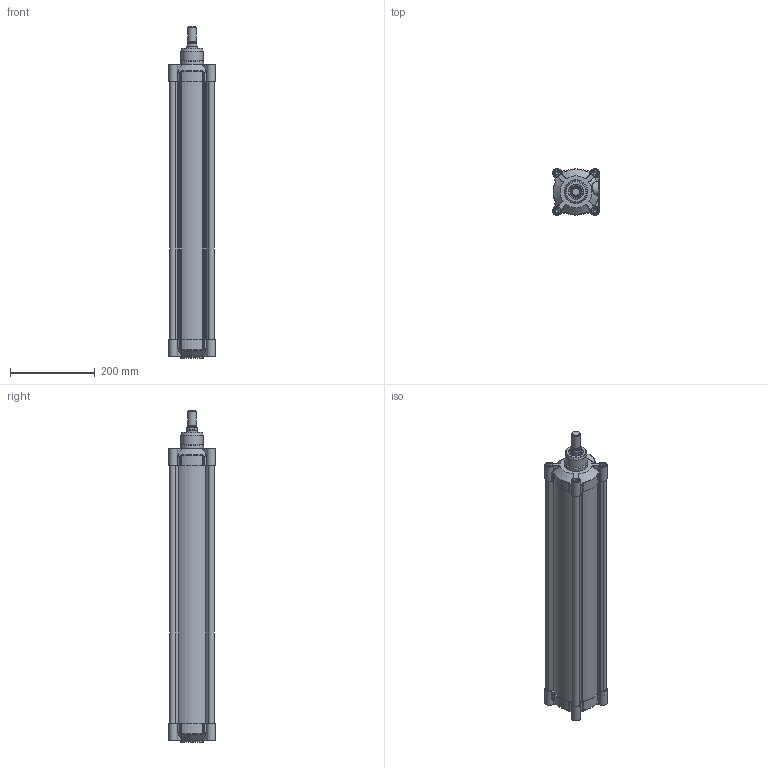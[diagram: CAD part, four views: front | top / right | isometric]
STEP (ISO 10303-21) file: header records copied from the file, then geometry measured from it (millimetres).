
FILE_DESCRIPTION(/* description */ (''),/* implementation_level */ '2;1');
FILE_NAME(/* name */ 'T:\Archivio Inventor\- 00 NUOVI STP PER SITO CON STELO CHE SI MUOVE\SERIE H - U\SERIE HDM\HDM100 - TUBO NUOVO\HDM100.550.GS.M.stp',/* time_stamp */ '2018-08-02T09:50:13+02:00',/* author */ ('carlo.corazza'),/* organization */ (''),/* preprocessor_version */ 'ST-DEVELOPER v16.5',/* originating_system */ 'Autodesk Inventor 2017',/* authorisation */ '');
FILE_SCHEMA (('AUTOMOTIVE_DESIGN { 1 0 10303 214 3 1 1 }'));
Length unit declared in the file: millimetre
Products named in the file (5): HDM100.550.GS.M; TP; TA; STELO-550; CORPO-550
Assembly tree (4 placements, depth 2):
  HDM100.550.GS.M
    TP
    TA
    STELO-550
    CORPO-550
Bounding box: 110 x 110 x 783 mm (x, y, z)
Volume: 1911131.5 mm3; surface area: 873996.5 mm2
Topology: 4 solids, 29 shells, 1355 faces, 3135 edges, 1912 vertices
Faces by surface type: plane 408, cylinder 313, bspline 270, torus 126, cone 122, sphere 116
Full cylindrical faces by diameter (mm): 5 x2, 5.9 x2, 6.5 x2, 7.25 x2, 8.376 x8, 9.4 x4, 10 x8, 10.3 x8, 11.8 x4, 11.9 x2, 12 x4, 16 x9, 16.3 x8, 17 x2, 17.5 x1, 18.631 x2, 20 x1, 24.5 x1, 25 x1, 25.8 x1, 25.962 x1, 30 x1, 31.5 x2, 35 x3, 52 x1, 55 x2, 100 x1
Entity records: 43668 total; most frequent: CARTESIAN_POINT 13702, ORIENTED_EDGE 5710, DIRECTION 5644, EDGE_CURVE 2855, AXIS2_PLACEMENT_3D 2293, VERTEX_POINT 1857, EDGE_LOOP 1690, STYLED_ITEM 1359
